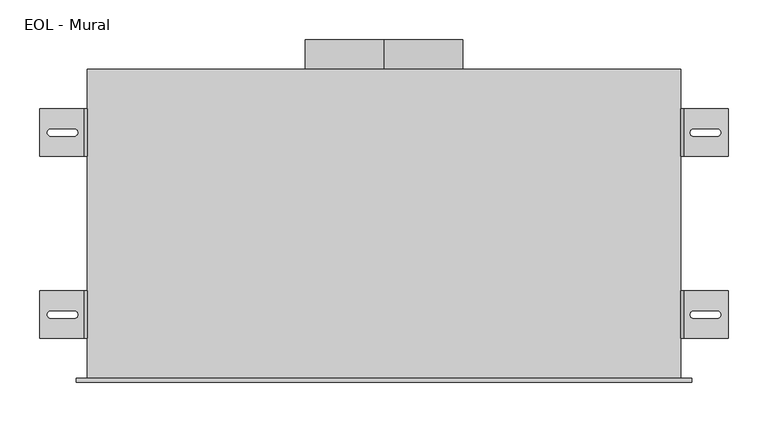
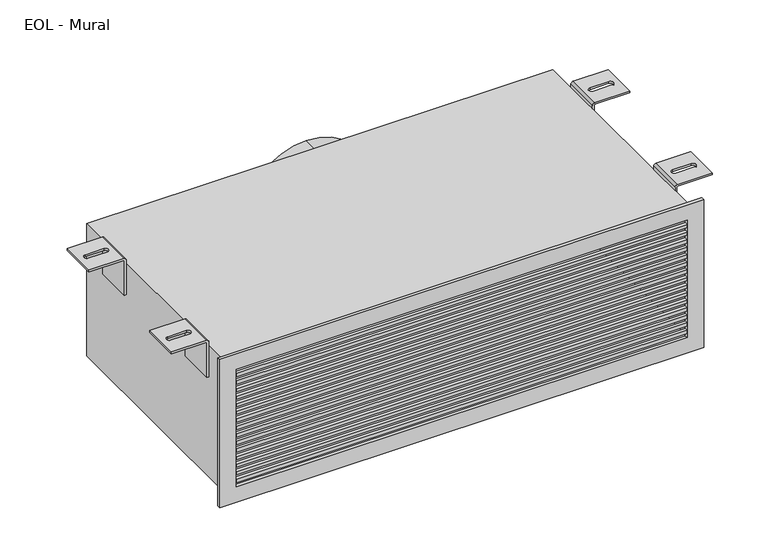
"""IFC4 building model written with IfcOpenShell, lengths in millimetres: air terminal geometry, EOL - Mural : EOL-M200-750x225-2."""

from ifc_helpers import new_model, si_unit, point, frame, origin, origin_2d, place, context, project, spatial, polyline, circle_curve, ellipse_curve, trimmed, segment, composite_curve, outline, extrude, source, transform, mapped, element, save
from ifc_brep_helpers import plane_surface, cylinder_surface, revolved_surface, extruded_surface, advanced_brep


def eol_mural_e3222fe8(model_context):
    return source(origin(), model_context, "Body", "SolidModel", [
        advanced_brep(
        [(379.0013366, 110.0, 121.5), (435.0, 110.0, 121.5), (435.0, 110.0, 118.5), (379.0, 110.0, 118.5), (378.0, 110.0, 117.5), (378.0, 110.0, 58.5), (375.0, 110.0, 58.5), (375.0, 110.0, 117.4986634), (379.0013366, 50.0, 121.5), (375.0, 50.0, 117.4986634), (375.0, 50.0, 58.5), (378.0, 50.0, 58.5), (378.0, 50.0, 117.5), (379.0, 50.0, 118.5), (435.0, 50.0, 118.5), (435.0, 50.0, 121.5), (421.0287952, 75.4804328, 121.5), (391.0287952, 75.4804328, 121.5), (391.0287952, 84.4804328, 121.5), (421.0287952, 84.4804328, 121.5), (391.0287952, 75.4804328, 118.5), (421.0287952, 75.4804328, 118.5), (421.0287952, 84.4804328, 118.5), (391.0287952, 84.4804328, 118.5)],
        [
            (0, 1),
            (1, 2),
            (2, 3),
            (3, 4, circle_curve(frame((379.0, 110.0, 117.5), z_axis=(0.0, -1.0, 0.0), x_axis=(-1.0000000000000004, 0.0, 0.0)), 1.0)),
            (4, 5),
            (5, 6),
            (6, 7),
            (7, 0, circle_curve(frame((379.0013366, 110.0, 117.4986634), z_axis=(0.0, 1.0, 0.0), x_axis=(-1.0000000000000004, 0.0, 0.0)), 4.0013366)),
            (8, 9, circle_curve(frame((379.0013366, 50.0, 117.4986634), z_axis=(0.0, -1.0, 0.0), x_axis=(-1.0000000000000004, 0.0, 0.0)), 4.0013366)),
            (9, 10),
            (10, 11),
            (11, 12),
            (12, 13, circle_curve(frame((379.0, 50.0, 117.5), z_axis=(0.0, 1.0, 0.0), x_axis=(-1.0000000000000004, 0.0, 0.0)), 1.0)),
            (13, 14),
            (14, 15),
            (15, 8),
            (0, 8),
            (15, 1),
            (16, 17),
            (17, 18, circle_curve(frame((391.0287952, 79.9804328, 121.5), z_axis=(0.0, 0.0, -1.0), x_axis=(0.0, -1.0, 0.0)), 4.5)),
            (18, 19),
            (19, 16, circle_curve(frame((421.0287952, 79.9804328, 121.5), z_axis=(0.0, 0.0, -1.0), x_axis=(0.0, -1.0, 0.0)), 4.5)),
            (14, 2),
            (13, 3),
            (20, 21),
            (21, 22, ellipse_curve(frame((421.0287952, 79.9804328, 118.5), z_axis=(0.0, 0.0, 1.0), x_axis=(0.0, -1.0, 0.0)), 4.5, 4.5)),
            (22, 23),
            (23, 20, ellipse_curve(frame((391.0287952, 79.9804328, 118.5), z_axis=(0.0, 0.0, 1.0), x_axis=(0.0, -1.0, 0.0)), 4.5, 4.5)),
            (12, 4),
            (11, 5),
            (10, 6),
            (9, 7),
            (16, 21),
            (20, 17),
            (19, 22),
            (18, 23),
        ],
        [
            plane_surface(frame((435.0, 110.0, 121.5), z_axis=(0.0, 1.0, 0.0), x_axis=(1.0, 0.0, 0.0))),
            plane_surface(frame((435.0, 50.0, 121.5), z_axis=(0.0, -1.0, 0.0), x_axis=(-1.0, 0.0, 0.0))),
            plane_surface(frame((379.0013366, 110.0, 121.5), z_axis=(0.0, 0.0, 1.0), x_axis=(0.0, -1.0, 0.0))),
            plane_surface(frame((435.0, 110.0, 121.5), z_axis=(1.0, 0.0, 0.0), x_axis=(0.0, -1.0, 0.0))),
            plane_surface(frame((435.0, 110.0, 118.5), z_axis=(0.0, 0.0, -1.0), x_axis=(0.0, -1.0, 0.0))),
            revolved_surface(polyline([(378.0, 50.0, 117.5), (378.0, 110.00000000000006, 117.5)]), (379.0, 50.0, 117.5), (0.0, -1.0000000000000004, 0.0)),
            plane_surface(frame((378.0, 110.0, 117.5), z_axis=(1.0, 0.0, 0.0), x_axis=(0.0, -1.0, 0.0))),
            plane_surface(frame((378.0, 110.0, 58.5), z_axis=(0.0, 0.0, -1.0), x_axis=(0.0, -1.0, 0.0))),
            plane_surface(frame((375.0, 110.0, 58.5), z_axis=(-1.0, 0.0, 0.0), x_axis=(0.0, -1.0, 0.0))),
            cylinder_surface(frame((379.0013366, 50.0, 117.4986634), z_axis=(0.0, 1.0000000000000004, 0.0), x_axis=(-1.0000000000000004, 0.0, 0.0)), 4.0013366),
            plane_surface(frame((391.0287952, 75.4804328, 121.5), z_axis=(0.0, 1.0, 0.0), x_axis=(0.0, 0.0, -1.0))),
            extruded_surface(trimmed(ellipse_curve(frame((421.0287952, 79.9804328, 118.5), z_axis=(0.0, 0.0, 1.0), x_axis=(0.0, -1.0, 0.0)), 4.5, 4.5), [point((421.0287952, 75.4804328, 118.5))], [point((421.0287952, 84.4804328, 118.5))], True, "CARTESIAN"), (0.0, 0.0, -3.0), 3.0),
            plane_surface(frame((421.0287952, 84.4804328, 121.5), z_axis=(0.0, -1.0, 0.0), x_axis=(0.0, 0.0, -1.0))),
            extruded_surface(trimmed(ellipse_curve(frame((391.0287952, 79.9804328, 118.5), z_axis=(0.0, 0.0, 1.0), x_axis=(0.0, -1.0, 0.0)), 4.5, 4.5), [point((391.0287952, 84.4804328, 118.5))], [point((391.0287952, 75.4804328, 118.5))], True, "CARTESIAN"), (0.0, 0.0, -3.0), 3.0),
        ],
        [
            (0, [[1, 2, 3, 4, 5, 6, 7, 8]]),
            (1, [[9, 10, 11, 12, 13, 14, 15, 16]]),
            (2, [[-1, 17, -16, 18], [19, 20, 21, 22]]),
            (3, [[-2, -18, -15, 23]]),
            (4, [[-3, -23, -14, 24], [25, 26, 27, 28]]),
            (5, [[-4, -24, -13, 29]]),
            (6, [[-5, -29, -12, 30]]),
            (7, [[-6, -30, -11, 31]]),
            (8, [[-7, -31, -10, 32]]),
            (9, [[-8, -32, -9, -17]]),
            (10, [[33, -25, 34, -19]]),
            (11, [[-33, -22, 35, -26]]),
            (12, [[-35, -21, 36, -27]]),
            (13, [[-34, -28, -36, -20]]),
        ],
    ),
        advanced_brep(
        [(379.0013366, 340.0, 121.5), (435.0, 340.0, 121.5), (435.0, 340.0, 118.5), (379.0, 340.0, 118.5), (378.0, 340.0, 117.5), (378.0, 340.0, 58.5), (375.0, 340.0, 58.5), (375.0, 340.0, 117.4986634), (379.0013366, 280.0, 121.5), (375.0, 280.0, 117.4986634), (375.0, 280.0, 58.5), (378.0, 280.0, 58.5), (378.0, 280.0, 117.5), (379.0, 280.0, 118.5), (435.0, 280.0, 118.5), (435.0, 280.0, 121.5), (421.0287952, 305.4804328, 121.5), (391.0287952, 305.4804328, 121.5), (391.0287952, 314.4804328, 121.5), (421.0287952, 314.4804328, 121.5), (391.0287952, 305.4804328, 118.5), (421.0287952, 305.4804328, 118.5), (421.0287952, 314.4804328, 118.5), (391.0287952, 314.4804328, 118.5)],
        [
            (0, 1),
            (1, 2),
            (2, 3),
            (3, 4, circle_curve(frame((379.0, 340.0, 117.5), z_axis=(0.0, -1.0, 0.0), x_axis=(-1.0, 0.0, 0.0)), 1.0)),
            (4, 5),
            (5, 6),
            (6, 7),
            (7, 0, circle_curve(frame((379.0013366, 340.0, 117.4986634), z_axis=(0.0, 1.0, 0.0), x_axis=(-1.0, 0.0, 0.0)), 4.0013366)),
            (8, 9, circle_curve(frame((379.0013366, 280.0, 117.4986634), z_axis=(0.0, -1.0, 0.0), x_axis=(-1.0, 0.0, 0.0)), 4.0013366)),
            (9, 10),
            (10, 11),
            (11, 12),
            (12, 13, circle_curve(frame((379.0, 280.0, 117.5), z_axis=(0.0, 1.0, 0.0), x_axis=(-1.0, 0.0, 0.0)), 1.0)),
            (13, 14),
            (14, 15),
            (15, 8),
            (0, 8),
            (15, 1),
            (16, 17),
            (17, 18, circle_curve(frame((391.0287952, 309.9804328, 121.5), z_axis=(0.0, 0.0, -1.0), x_axis=(0.0, -1.0, 0.0)), 4.5)),
            (18, 19),
            (19, 16, circle_curve(frame((421.0287952, 309.9804328, 121.5), z_axis=(0.0, 0.0, -1.0), x_axis=(0.0, -1.0, 0.0)), 4.5)),
            (14, 2),
            (13, 3),
            (20, 21),
            (21, 22, ellipse_curve(frame((421.0287952, 309.9804328, 118.5), z_axis=(0.0, 0.0, 1.0), x_axis=(0.0, -1.0, 0.0)), 4.5, 4.5)),
            (22, 23),
            (23, 20, ellipse_curve(frame((391.0287952, 309.9804328, 118.5), z_axis=(0.0, 0.0, 1.0), x_axis=(0.0, -1.0, 0.0)), 4.5, 4.5)),
            (12, 4),
            (11, 5),
            (10, 6),
            (9, 7),
            (16, 21),
            (20, 17),
            (19, 22),
            (18, 23),
        ],
        [
            plane_surface(frame((435.0, 340.0, 121.5), z_axis=(0.0, 1.0, 0.0), x_axis=(1.0, 0.0, 0.0))),
            plane_surface(frame((435.0, 280.0, 121.5), z_axis=(0.0, -1.0, 0.0), x_axis=(-1.0, 0.0, 0.0))),
            plane_surface(frame((379.0013366, 340.0, 121.5), z_axis=(0.0, 0.0, 1.0), x_axis=(0.0, -1.0, 0.0))),
            plane_surface(frame((435.0, 340.0, 121.5), z_axis=(1.0, 0.0, 0.0), x_axis=(0.0, -1.0, 0.0))),
            plane_surface(frame((435.0, 340.0, 118.5), z_axis=(0.0, 0.0, -1.0), x_axis=(0.0, -1.0, 0.0))),
            revolved_surface(polyline([(378.0, 280.0, 117.5), (378.0, 340.0, 117.5)]), (379.0, 280.0, 117.5), (0.0, -1.0, 0.0)),
            plane_surface(frame((378.0, 340.0, 117.5), z_axis=(1.0, 0.0, 0.0), x_axis=(0.0, -1.0, 0.0))),
            plane_surface(frame((378.0, 340.0, 58.5), z_axis=(0.0, 0.0, -1.0), x_axis=(0.0, -1.0, 0.0))),
            plane_surface(frame((375.0, 340.0, 58.5), z_axis=(-1.0, 0.0, 0.0), x_axis=(0.0, -1.0, 0.0))),
            cylinder_surface(frame((379.0013366, 280.0, 117.4986634), z_axis=(0.0, 1.0, 0.0), x_axis=(-1.0, 0.0, 0.0)), 4.0013366),
            plane_surface(frame((391.0287952, 305.4804328, 121.5), z_axis=(0.0, 1.0, 0.0), x_axis=(0.0, 0.0, -1.0))),
            extruded_surface(trimmed(ellipse_curve(frame((421.0287952, 309.9804328, 118.5), z_axis=(0.0, 0.0, 1.0), x_axis=(0.0, -1.0, 0.0)), 4.5, 4.5), [point((421.0287952, 305.4804328, 118.5))], [point((421.0287952, 314.4804328, 118.5))], True, "CARTESIAN"), (0.0, 0.0, -3.0), 3.0),
            plane_surface(frame((421.0287952, 314.4804328, 121.5), z_axis=(0.0, -1.0, 0.0), x_axis=(0.0, 0.0, -1.0))),
            extruded_surface(trimmed(ellipse_curve(frame((391.0287952, 309.9804328, 118.5), z_axis=(0.0, 0.0, 1.0), x_axis=(0.0, -1.0, 0.0)), 4.5, 4.5), [point((391.0287952, 314.4804328, 118.5))], [point((391.0287952, 305.4804328, 118.5))], True, "CARTESIAN"), (0.0, 0.0, -3.0), 3.0),
        ],
        [
            (0, [[1, 2, 3, 4, 5, 6, 7, 8]]),
            (1, [[9, 10, 11, 12, 13, 14, 15, 16]]),
            (2, [[-1, 17, -16, 18], [19, 20, 21, 22]]),
            (3, [[-2, -18, -15, 23]]),
            (4, [[-3, -23, -14, 24], [25, 26, 27, 28]]),
            (5, [[-4, -24, -13, 29]]),
            (6, [[-5, -29, -12, 30]]),
            (7, [[-6, -30, -11, 31]]),
            (8, [[-7, -31, -10, 32]]),
            (9, [[-8, -32, -9, -17]]),
            (10, [[33, -25, 34, -19]]),
            (11, [[-33, -22, 35, -26]]),
            (12, [[-35, -21, 36, -27]]),
            (13, [[-34, -28, -36, -20]]),
        ],
    ),
        advanced_brep(
        [(-379.0013366, 50.0, 121.5), (-435.0, 50.0, 121.5), (-435.0, 50.0, 118.5), (-379.0, 50.0, 118.5), (-378.0, 50.0, 117.5), (-378.0, 50.0, 58.5), (-375.0, 50.0, 58.5), (-375.0, 50.0, 117.4986634), (-379.0013366, 110.0, 121.5), (-375.0, 110.0, 117.4986634), (-375.0, 110.0, 58.5), (-378.0, 110.0, 58.5), (-378.0, 110.0, 117.5), (-379.0, 110.0, 118.5), (-435.0, 110.0, 118.5), (-435.0, 110.0, 121.5), (-421.0287952, 84.5195672, 121.5), (-391.0287952, 84.5195672, 121.5), (-391.0287952, 75.5195672, 121.5), (-421.0287952, 75.5195672, 121.5), (-391.0287952, 84.5195672, 118.5), (-421.0287952, 84.5195672, 118.5), (-421.0287952, 75.5195672, 118.5), (-391.0287952, 75.5195672, 118.5)],
        [
            (0, 1),
            (1, 2),
            (2, 3),
            (3, 4, circle_curve(frame((-379.0, 50.0, 117.5), z_axis=(0.0, 1.0, 0.0), x_axis=(1.0, 0.0, 0.0)), 1.0)),
            (4, 5),
            (5, 6),
            (6, 7),
            (7, 0, circle_curve(frame((-379.0013366, 50.0, 117.4986634), z_axis=(0.0, -1.0, 0.0), x_axis=(1.0, 0.0, 0.0)), 4.0013366)),
            (8, 9, circle_curve(frame((-379.0013366, 110.0, 117.4986634), z_axis=(0.0, 1.0, 0.0), x_axis=(1.0, 0.0, 0.0)), 4.0013366)),
            (9, 10),
            (10, 11),
            (11, 12),
            (12, 13, circle_curve(frame((-379.0, 110.0, 117.5), z_axis=(0.0, -1.0, 0.0), x_axis=(1.0, 0.0, 0.0)), 1.0)),
            (13, 14),
            (14, 15),
            (15, 8),
            (0, 8),
            (15, 1),
            (16, 17),
            (17, 18, circle_curve(frame((-391.0287952, 80.0195672, 121.5), z_axis=(0.0, 0.0, -1.0), x_axis=(0.0, 1.0, 0.0)), 4.5)),
            (18, 19),
            (19, 16, circle_curve(frame((-421.0287952, 80.0195672, 121.5), z_axis=(0.0, 0.0, -1.0), x_axis=(0.0, 1.0, 0.0)), 4.5)),
            (14, 2),
            (13, 3),
            (20, 21),
            (21, 22, ellipse_curve(frame((-421.0287952, 80.0195672, 118.5), z_axis=(0.0, 0.0, 1.0), x_axis=(0.0, 1.0, 0.0)), 4.5, 4.5)),
            (22, 23),
            (23, 20, ellipse_curve(frame((-391.0287952, 80.0195672, 118.5), z_axis=(0.0, 0.0, 1.0), x_axis=(0.0, 1.0, 0.0)), 4.5, 4.5)),
            (12, 4),
            (11, 5),
            (10, 6),
            (9, 7),
            (16, 21),
            (20, 17),
            (19, 22),
            (18, 23),
        ],
        [
            plane_surface(frame((-435.0, 50.0, 121.5), z_axis=(0.0, -1.0, 0.0), x_axis=(-1.0, 0.0, 0.0))),
            plane_surface(frame((-435.0, 110.0, 121.5), z_axis=(0.0, 1.0, 0.0), x_axis=(1.0, 0.0, 0.0))),
            plane_surface(frame((-379.0013366, 50.0, 121.5), z_axis=(0.0, 0.0, 1.0), x_axis=(0.0, 1.0, 0.0))),
            plane_surface(frame((-435.0, 50.0, 121.5), z_axis=(-1.0, 0.0, 0.0), x_axis=(0.0, 1.0, 0.0))),
            plane_surface(frame((-435.0, 50.0, 118.5), z_axis=(0.0, 0.0, -1.0), x_axis=(0.0, 1.0, 0.0))),
            revolved_surface(polyline([(-378.0, 110.0, 117.5), (-378.0, 50.0, 117.5)]), (-379.0, 110.0, 117.5), (0.0, 1.0, 0.0)),
            plane_surface(frame((-378.0, 50.0, 117.5), z_axis=(-1.0, 0.0, 0.0), x_axis=(0.0, 1.0, 0.0))),
            plane_surface(frame((-378.0, 50.0, 58.5), z_axis=(0.0, 0.0, -1.0), x_axis=(0.0, 1.0, 0.0))),
            plane_surface(frame((-375.0, 50.0, 58.5), z_axis=(1.0, 0.0, 0.0), x_axis=(0.0, 1.0, 0.0))),
            cylinder_surface(frame((-379.0013366, 110.0, 117.4986634), z_axis=(0.0, -1.0, 0.0), x_axis=(1.0, 0.0, 0.0)), 4.0013366),
            plane_surface(frame((-391.0287952, 84.5195672, 121.5), z_axis=(0.0, -1.0, 0.0), x_axis=(0.0, 0.0, -1.0))),
            extruded_surface(trimmed(ellipse_curve(frame((-421.0287952, 80.0195672, 118.5), z_axis=(0.0, 0.0, 1.0), x_axis=(0.0, 1.0, 0.0)), 4.5, 4.5), [point((-421.0287952, 84.5195672, 118.5))], [point((-421.0287952, 75.5195672, 118.5))], True, "CARTESIAN"), (0.0, 0.0, -3.0), 3.0),
            plane_surface(frame((-421.0287952, 75.5195672, 121.5), z_axis=(0.0, 1.0, 0.0), x_axis=(0.0, 0.0, -1.0))),
            extruded_surface(trimmed(ellipse_curve(frame((-391.0287952, 80.0195672, 118.5), z_axis=(0.0, 0.0, 1.0), x_axis=(0.0, 1.0, 0.0)), 4.5, 4.5), [point((-391.0287952, 75.5195672, 118.5))], [point((-391.0287952, 84.5195672, 118.5))], True, "CARTESIAN"), (0.0, 0.0, -3.0), 3.0),
        ],
        [
            (0, [[1, 2, 3, 4, 5, 6, 7, 8]]),
            (1, [[9, 10, 11, 12, 13, 14, 15, 16]]),
            (2, [[-1, 17, -16, 18], [19, 20, 21, 22]]),
            (3, [[-2, -18, -15, 23]]),
            (4, [[-3, -23, -14, 24], [25, 26, 27, 28]]),
            (5, [[-4, -24, -13, 29]]),
            (6, [[-5, -29, -12, 30]]),
            (7, [[-6, -30, -11, 31]]),
            (8, [[-7, -31, -10, 32]]),
            (9, [[-8, -32, -9, -17]]),
            (10, [[33, -25, 34, -19]]),
            (11, [[-33, -22, 35, -26]]),
            (12, [[-35, -21, 36, -27]]),
            (13, [[-34, -28, -36, -20]]),
        ],
    ),
        advanced_brep(
        [(-379.0013366, 280.0, 121.5), (-435.0, 280.0, 121.5), (-435.0, 280.0, 118.5), (-379.0, 280.0, 118.5), (-378.0, 280.0, 117.5), (-378.0, 280.0, 58.5), (-375.0, 280.0, 58.5), (-375.0, 280.0, 117.4986634), (-379.0013366, 340.0, 121.5), (-375.0, 340.0, 117.4986634), (-375.0, 340.0, 58.5), (-378.0, 340.0, 58.5), (-378.0, 340.0, 117.5), (-379.0, 340.0, 118.5), (-435.0, 340.0, 118.5), (-435.0, 340.0, 121.5), (-421.0287952, 314.5195672, 121.5), (-391.0287952, 314.5195672, 121.5), (-391.0287952, 305.5195672, 121.5), (-421.0287952, 305.5195672, 121.5), (-391.0287952, 314.5195672, 118.5), (-421.0287952, 314.5195672, 118.5), (-421.0287952, 305.5195672, 118.5), (-391.0287952, 305.5195672, 118.5)],
        [
            (0, 1),
            (1, 2),
            (2, 3),
            (3, 4, circle_curve(frame((-379.0, 280.0, 117.5), z_axis=(0.0, 1.0, 0.0), x_axis=(1.0, 0.0, 0.0)), 1.0)),
            (4, 5),
            (5, 6),
            (6, 7),
            (7, 0, circle_curve(frame((-379.0013366, 280.0, 117.4986634), z_axis=(0.0, -1.0, 0.0), x_axis=(1.0, 0.0, 0.0)), 4.0013366)),
            (8, 9, circle_curve(frame((-379.0013366, 340.0, 117.4986634), z_axis=(0.0, 1.0, 0.0), x_axis=(1.0, 0.0, 0.0)), 4.0013366)),
            (9, 10),
            (10, 11),
            (11, 12),
            (12, 13, circle_curve(frame((-379.0, 340.0, 117.5), z_axis=(0.0, -1.0, 0.0), x_axis=(1.0, 0.0, 0.0)), 1.0)),
            (13, 14),
            (14, 15),
            (15, 8),
            (0, 8),
            (15, 1),
            (16, 17),
            (17, 18, circle_curve(frame((-391.0287952, 310.0195672, 121.5), z_axis=(0.0, 0.0, -1.0), x_axis=(0.0, 1.0, 0.0)), 4.5)),
            (18, 19),
            (19, 16, circle_curve(frame((-421.0287952, 310.0195672, 121.5), z_axis=(0.0, 0.0, -1.0), x_axis=(0.0, 1.0, 0.0)), 4.5)),
            (14, 2),
            (13, 3),
            (20, 21),
            (21, 22, ellipse_curve(frame((-421.0287952, 310.0195672, 118.5), z_axis=(0.0, 0.0, 1.0), x_axis=(0.0, 1.0, 0.0)), 4.5, 4.5)),
            (22, 23),
            (23, 20, ellipse_curve(frame((-391.0287952, 310.0195672, 118.5), z_axis=(0.0, 0.0, 1.0), x_axis=(0.0, 1.0, 0.0)), 4.5, 4.5)),
            (12, 4),
            (11, 5),
            (10, 6),
            (9, 7),
            (16, 21),
            (20, 17),
            (19, 22),
            (18, 23),
        ],
        [
            plane_surface(frame((-435.0, 280.0, 121.5), z_axis=(0.0, -1.0, 0.0), x_axis=(-1.0, 0.0, 0.0))),
            plane_surface(frame((-435.0, 340.0, 121.5), z_axis=(0.0, 1.0, 0.0), x_axis=(1.0, 0.0, 0.0))),
            plane_surface(frame((-379.0013366, 280.0, 121.5), z_axis=(0.0, 0.0, 1.0), x_axis=(0.0, 1.0, 0.0))),
            plane_surface(frame((-435.0, 280.0, 121.5), z_axis=(-1.0, 0.0, 0.0), x_axis=(0.0, 1.0, 0.0))),
            plane_surface(frame((-435.0, 280.0, 118.5), z_axis=(0.0, 0.0, -1.0), x_axis=(0.0, 1.0, 0.0))),
            revolved_surface(polyline([(-378.0, 340.0, 117.5), (-378.0, 280.0, 117.5)]), (-379.0, 340.0, 117.5), (0.0, 1.0, 0.0)),
            plane_surface(frame((-378.0, 280.0, 117.5), z_axis=(-1.0, 0.0, 0.0), x_axis=(0.0, 1.0, 0.0))),
            plane_surface(frame((-378.0, 280.0, 58.5), z_axis=(0.0, 0.0, -1.0), x_axis=(0.0, 1.0, 0.0))),
            plane_surface(frame((-375.0, 280.0, 58.5), z_axis=(1.0, 0.0, 0.0), x_axis=(0.0, 1.0, 0.0))),
            cylinder_surface(frame((-379.0013366, 340.0, 117.4986634), z_axis=(0.0, -1.0, 0.0), x_axis=(1.0, 0.0, 0.0)), 4.0013366),
            plane_surface(frame((-391.0287952, 314.5195672, 121.5), z_axis=(0.0, -1.0, 0.0), x_axis=(0.0, 0.0, -1.0))),
            extruded_surface(trimmed(ellipse_curve(frame((-421.0287952, 310.0195672, 118.5), z_axis=(0.0, 0.0, 1.0), x_axis=(0.0, 1.0, 0.0)), 4.5, 4.5), [point((-421.0287952, 314.5195672, 118.5))], [point((-421.0287952, 305.5195672, 118.5))], True, "CARTESIAN"), (0.0, 0.0, -3.0), 3.0),
            plane_surface(frame((-421.0287952, 305.5195672, 121.5), z_axis=(0.0, 1.0, 0.0), x_axis=(0.0, 0.0, -1.0))),
            extruded_surface(trimmed(ellipse_curve(frame((-391.0287952, 310.0195672, 118.5), z_axis=(0.0, 0.0, 1.0), x_axis=(0.0, 1.0, 0.0)), 4.5, 4.5), [point((-391.0287952, 305.5195672, 118.5))], [point((-391.0287952, 314.5195672, 118.5))], True, "CARTESIAN"), (0.0, 0.0, -3.0), 3.0),
        ],
        [
            (0, [[1, 2, 3, 4, 5, 6, 7, 8]]),
            (1, [[9, 10, 11, 12, 13, 14, 15, 16]]),
            (2, [[-1, 17, -16, 18], [19, 20, 21, 22]]),
            (3, [[-2, -18, -15, 23]]),
            (4, [[-3, -23, -14, 24], [25, 26, 27, 28]]),
            (5, [[-4, -24, -13, 29]]),
            (6, [[-5, -29, -12, 30]]),
            (7, [[-6, -30, -11, 31]]),
            (8, [[-7, -31, -10, 32]]),
            (9, [[-8, -32, -9, -17]]),
            (10, [[33, -25, 34, -19]]),
            (11, [[-33, -22, 35, -26]]),
            (12, [[-35, -21, 36, -27]]),
            (13, [[-34, -28, -36, -20]]),
        ],
    ),
        extrude(outline(composite_curve([segment(trimmed(circle_curve(origin_2d(), 100.0), [point((-100.0, 0.0))], [point((100.0, 0.0))], False, "CARTESIAN"), True, "CONTINUOUS"), segment(trimmed(circle_curve(origin_2d(), 100.0), [point((100.0, 0.0))], [point((-100.0, 0.0))], False, "CARTESIAN"), True, "CONTINUOUS")], self_intersect=False), holes=[composite_curve([segment(trimmed(circle_curve(origin_2d(), 99.0), [point((0.0, 99.0))], [point((0.0, -99.0))], True, "CARTESIAN"), True, "CONTINUOUS"), segment(trimmed(circle_curve(origin_2d(), 99.0), [point((0.0, -99.0))], [point((0.0, 99.0))], True, "CARTESIAN"), True, "CONTINUOUS")], self_intersect=False)]), frame((0.0, 390.0, 0.0), z_axis=(0.0, 1.0, 0.0), x_axis=(0.0, 0.0, 1.0)), (0.0, 0.0, 1.0), 37.5),
        extrude(outline(polyline([(362.5, 0.0), (362.5, -5.0), (-362.5, -5.0), (-362.5, 0.0), (362.5, 0.0)])), frame((0.0, 0.0, 87.15), z_axis=(0.0, 0.0, 1.0), x_axis=(1.0, 0.0, 0.0)), (0.0, 0.0, 1.0), 5.6),
        extrude(outline(polyline([(362.5, 0.0), (362.5, -5.0), (-362.5, -5.0), (-362.5, 0.0), (362.5, 0.0)])), frame((0.0, 0.0, 74.3), z_axis=(0.0, 0.0, 1.0), x_axis=(1.0, 0.0, 0.0)), (0.0, 0.0, 1.0), 5.6),
        extrude(outline(polyline([(362.5, 0.0), (362.5, -5.0), (-362.5, -5.0), (-362.5, 0.0), (362.5, 0.0)])), frame((0.0, 0.0, 61.45), z_axis=(0.0, 0.0, 1.0), x_axis=(1.0, 0.0, 0.0)), (0.0, 0.0, 1.0), 5.6),
        extrude(outline(polyline([(362.5, 0.0), (362.5, -5.0), (-362.5, -5.0), (-362.5, 0.0), (362.5, 0.0)])), frame((0.0, 0.0, 48.6), z_axis=(0.0, 0.0, 1.0), x_axis=(1.0, 0.0, 0.0)), (0.0, 0.0, 1.0), 5.6),
        extrude(outline(polyline([(362.5, 0.0), (362.5, -5.0), (-362.5, -5.0), (-362.5, 0.0), (362.5, 0.0)])), frame((0.0, 0.0, 35.75), z_axis=(0.0, 0.0, 1.0), x_axis=(1.0, 0.0, 0.0)), (0.0, 0.0, 1.0), 5.6),
        extrude(outline(polyline([(362.5, 0.0), (362.5, -5.0), (-362.5, -5.0), (-362.5, 0.0), (362.5, 0.0)])), frame((0.0, 0.0, 22.9), z_axis=(0.0, 0.0, 1.0), x_axis=(1.0, 0.0, 0.0)), (0.0, 0.0, 1.0), 5.6),
        extrude(outline(polyline([(362.5, 0.0), (362.5, -5.0), (-362.5, -5.0), (-362.5, 0.0), (362.5, 0.0)])), frame((0.0, 0.0, 10.05), z_axis=(0.0, 0.0, 1.0), x_axis=(1.0, 0.0, 0.0)), (0.0, 0.0, 1.0), 5.6),
        extrude(outline(polyline([(362.5, 0.0), (362.5, -5.0), (-362.5, -5.0), (-362.5, 0.0), (362.5, 0.0)])), frame((0.0, 0.0, -2.8), z_axis=(0.0, 0.0, 1.0), x_axis=(1.0, 0.0, 0.0)), (0.0, 0.0, 1.0), 5.6),
        extrude(outline(polyline([(362.5, 0.0), (362.5, -5.0), (-362.5, -5.0), (-362.5, 0.0), (362.5, 0.0)])), frame((0.0, 0.0, -15.65), z_axis=(0.0, 0.0, 1.0), x_axis=(1.0, 0.0, 0.0)), (0.0, 0.0, 1.0), 5.6),
        extrude(outline(polyline([(362.5, 0.0), (362.5, -5.0), (-362.5, -5.0), (-362.5, 0.0), (362.5, 0.0)])), frame((0.0, 0.0, -28.5), z_axis=(0.0, 0.0, 1.0), x_axis=(1.0, 0.0, 0.0)), (0.0, 0.0, 1.0), 5.6),
        extrude(outline(polyline([(362.5, 0.0), (362.5, -5.0), (-362.5, -5.0), (-362.5, 0.0), (362.5, 0.0)])), frame((0.0, 0.0, -41.35), z_axis=(0.0, 0.0, 1.0), x_axis=(1.0, 0.0, 0.0)), (0.0, 0.0, 1.0), 5.6),
        extrude(outline(polyline([(362.5, 0.0), (362.5, -5.0), (-362.5, -5.0), (-362.5, 0.0), (362.5, 0.0)])), frame((0.0, 0.0, -54.2), z_axis=(0.0, 0.0, 1.0), x_axis=(1.0, 0.0, 0.0)), (0.0, 0.0, 1.0), 5.6),
        extrude(outline(polyline([(362.5, 0.0), (362.5, -5.0), (-362.5, -5.0), (-362.5, 0.0), (362.5, 0.0)])), frame((0.0, 0.0, -67.05), z_axis=(0.0, 0.0, 1.0), x_axis=(1.0, 0.0, 0.0)), (0.0, 0.0, 1.0), 5.6),
        extrude(outline(polyline([(362.5, 0.0), (362.5, -5.0), (-362.5, -5.0), (-362.5, 0.0), (362.5, 0.0)])), frame((0.0, 0.0, -79.9), z_axis=(0.0, 0.0, 1.0), x_axis=(1.0, 0.0, 0.0)), (0.0, 0.0, 1.0), 5.6),
        extrude(outline(polyline([(362.5, 0.0), (362.5, -5.0), (-362.5, -5.0), (-362.5, 0.0), (362.5, 0.0)])), frame((0.0, 0.0, -92.75), z_axis=(0.0, 0.0, 1.0), x_axis=(1.0, 0.0, 0.0)), (0.0, 0.0, 1.0), 5.6),
        extrude(outline(polyline([(126.0, 389.0), (126.0, -389.0), (-126.0, -389.0), (-126.0, 389.0), (126.0, 389.0)]), holes=[polyline([(100.0, 362.5), (-100.0, 362.5), (-100.0, -362.5), (100.0, -362.5), (100.0, 362.5)])]), frame((0.0, -5.0, 0.0), z_axis=(0.0, 1.0, 0.0), x_axis=(0.0, 0.0, 1.0)), (0.0, 0.0, 1.0), 5.0),
        advanced_brep(
        [(375.0, 390.0, 112.5), (-375.0, 390.0, 112.5), (-375.0, 0.0, 112.5), (375.0, 0.0, 112.5), (375.0, 390.0, -112.5), (375.0, 0.0, -112.5), (-375.0, 0.0, -112.5), (-375.0, 390.0, -112.5), (-99.0, 390.0, 0.0), (99.0, 390.0, 0.0), (-370.0, 0.0, 107.5), (370.0, 0.0, 107.5), (370.0, 0.0, -107.5), (-370.0, 0.0, -107.5), (370.0, 385.0, 107.5), (-370.0, 385.0, 107.5), (370.0, 385.0, -107.5), (-370.0, 385.0, -107.5), (99.0, 385.0, 0.0), (-99.0, 385.0, 0.0)],
        [
            (0, 1),
            (1, 2),
            (2, 3),
            (3, 0),
            (4, 5),
            (5, 6),
            (6, 7),
            (7, 4),
            (0, 4),
            (7, 1),
            (8, 9, circle_curve(frame((0.0, 390.0, 0.0), z_axis=(0.0, -1.0, 0.0), x_axis=(1.0, 0.0, 0.0)), 99.0)),
            (9, 8, circle_curve(frame((0.0, 390.0, 0.0), z_axis=(0.0, -1.0, 0.0), x_axis=(1.0, 0.0, 0.0)), 99.0)),
            (6, 2),
            (5, 3),
            (10, 11),
            (11, 12),
            (12, 13),
            (13, 10),
            (14, 11),
            (10, 15),
            (15, 14),
            (16, 17),
            (17, 13),
            (12, 16),
            (15, 17),
            (16, 14),
            (18, 19, circle_curve(frame((0.0, 385.0, 0.0), z_axis=(0.0, 1.0, 0.0), x_axis=(1.0, 0.0, 0.0)), 99.0)),
            (19, 18, circle_curve(frame((0.0, 385.0, 0.0), z_axis=(0.0, 1.0, 0.0), x_axis=(1.0, 0.0, 0.0)), 99.0)),
            (8, 19),
            (18, 9),
        ],
        [
            plane_surface(frame((-375.0, 390.0, 112.5), z_axis=(0.0, 0.0, 1.0), x_axis=(-1.0, 0.0, 0.0))),
            plane_surface(frame((-375.0, 390.0, -112.5), z_axis=(0.0, 0.0, -1.0), x_axis=(1.0, 0.0, 0.0))),
            plane_surface(frame((375.0, 390.0, 112.5), z_axis=(0.0, 1.0, 0.0), x_axis=(0.0, 0.0, -1.0))),
            plane_surface(frame((-375.0, 390.0, 112.5), z_axis=(-1.0, 0.0, 0.0), x_axis=(0.0, 0.0, -1.0))),
            plane_surface(frame((-375.0, 0.0, 112.5), z_axis=(0.0, -1.0, 0.0), x_axis=(0.0, 0.0, -1.0))),
            plane_surface(frame((375.0, 0.0, 112.5), z_axis=(1.0, 0.0, 0.0), x_axis=(0.0, 0.0, -1.0))),
            plane_surface(frame((-370.0, 385.0, 107.5), z_axis=(0.0, 0.0, -1.0), x_axis=(-1.0, 0.0, 0.0))),
            plane_surface(frame((-370.0, 385.0, -107.5), z_axis=(0.0, 0.0, 1.0), x_axis=(1.0, 0.0, 0.0))),
            plane_surface(frame((370.0, 385.0, 107.5), z_axis=(0.0, -1.0, 0.0), x_axis=(0.0, 0.0, -1.0))),
            plane_surface(frame((-370.0, 385.0, 107.5), z_axis=(1.0, 0.0, 0.0), x_axis=(0.0, 0.0, -1.0))),
            plane_surface(frame((370.0, 0.0, 107.5), z_axis=(-1.0, 0.0, 0.0), x_axis=(0.0, 0.0, -1.0))),
            revolved_surface(polyline([(99.0, 385.0, 0.0), (99.0, 390.0, 0.0)]), (0.0, 427.5, 0.0), (0.0, -1.0, 0.0)),
        ],
        [
            (0, [[1, 2, 3, 4]]),
            (1, [[5, 6, 7, 8]]),
            (2, [[-1, 9, -8, 10], [11, 12]]),
            (3, [[-2, -10, -7, 13]]),
            (4, [[-3, -13, -6, 14], [15, 16, 17, 18]]),
            (5, [[-4, -14, -5, -9]]),
            (6, [[19, -15, 20, 21]]),
            (7, [[22, 23, -17, 24]]),
            (8, [[-21, 25, -22, 26], [27, 28]]),
            (9, [[-20, -18, -23, -25]]),
            (10, [[-19, -26, -24, -16]]),
            (11, [[29, -27, 30, -11]]),
            (11, [[-29, -12, -30, -28]]),
        ],
    ),
    ])


if __name__ == "__main__":
    model = new_model("IFC4")
    model_context = context("Model", 3, world=origin())
    ifc_project = project(units=[si_unit("LENGTHUNIT", "METRE", prefix="MILLI")], contexts=[model_context])
    site = spatial("IfcSite", under=ifc_project)
    building = spatial("IfcBuilding", under=site)
    placement = place(None, origin())
    eol_mural_shape = eol_mural_e3222fe8(model_context)
    element("IfcAirTerminal", 1, ObjectType="EOL - Mural : EOL-M200-750x225-2", at=placement, inside=building, context=model_context, shape_type="MappedRepresentation", body=[
        mapped(eol_mural_shape, transform((0.0, 0.0, 0.0), x_axis=(1.0, 0.0, 0.0), y_axis=(0.0, 1.0, 0.0), z_axis=(0.0, 0.0, 1.0))),
    ])
    save(model, "model.ifc")
